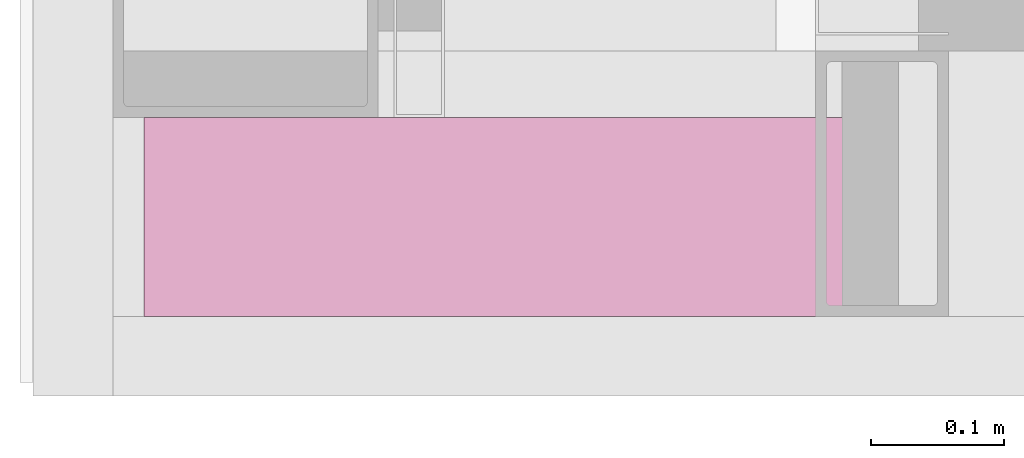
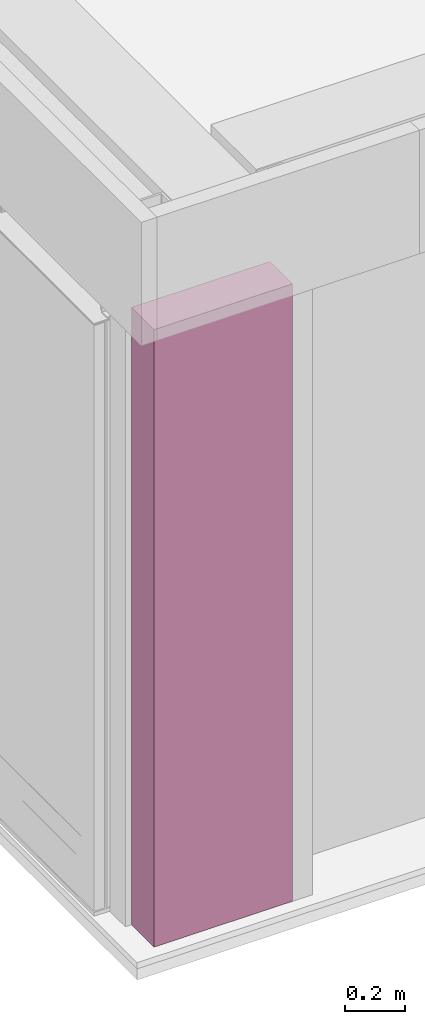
# One storey, part 10 of 14: 1 furnishing.
"""IFC2X3 building model written with IfcOpenShell, lengths in millimetres."""

from ifc_helpers import new_model, entity, si_unit, converted_unit, derived_unit, direction, frame, origin, origin_with_axes, origin_2d_with_axis, place, context, subcontext, project, spatial, rectangle, extrude, source, transform, mapped, material, type_object, element, save


model = new_model("IFC2X3")

# Units and contexts
model_context = context("Model", 3, precision=0.01, world=frame((0.0, 4.29681676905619e-09, 0.0)), true_north=direction((4.01073788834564e-13, 1.0)))
plan_context = context("Plan", 3, precision=0.01, world=frame((0.0, 4.29681676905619e-09, 0.0)), true_north=direction((4.01073788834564e-13, 1.0)))
body_context = subcontext(model_context, "Body", "Model", "MODEL_VIEW")
ifc_project = project(units=[converted_unit("PLANEANGLEUNIT", "DEGREE", entity("IfcPositiveLengthMeasure", 0.0174532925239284), si_unit("PLANEANGLEUNIT", "RADIAN"), dimensions=[0, 0, 0, 0, 0, 0, 0]), si_unit("AREAUNIT", "SQUARE_METRE"), si_unit("LENGTHUNIT", "METRE", prefix="MILLI"), si_unit("MASSUNIT", "GRAM", prefix="KILO"), si_unit("POWERUNIT", "WATT"), si_unit("PRESSUREUNIT", "PASCAL"), si_unit("FORCEUNIT", "NEWTON", prefix="KILO"), si_unit("ELECTRICVOLTAGEUNIT", "VOLT"), si_unit("ELECTRICCURRENTUNIT", "AMPERE"), si_unit("THERMODYNAMICTEMPERATUREUNIT", "DEGREE_CELSIUS"), si_unit("TIMEUNIT", "SECOND"), si_unit("VOLUMEUNIT", "CUBIC_METRE"), derived_unit("LINEARVELOCITYUNIT", [(si_unit("LENGTHUNIT", "METRE"), 1), (si_unit("TIMEUNIT", "SECOND"), -1)]), derived_unit("VOLUMETRICFLOWRATEUNIT", [(si_unit("VOLUMEUNIT", "CUBIC_METRE"), 1), (si_unit("TIMEUNIT", "SECOND"), -1)]), derived_unit("THERMALTRANSMITTANCEUNIT", [(si_unit("POWERUNIT", "WATT"), 1), (si_unit("THERMODYNAMICTEMPERATUREUNIT", "KELVIN"), -1), (si_unit("AREAUNIT", "SQUARE_METRE"), -1)]), derived_unit("SOUNDPRESSUREUNIT", [(si_unit("PRESSUREUNIT", "PASCAL"), 1)])], contexts=[model_context, plan_context])

# Site, building, storey
site_placement = place(None, origin_with_axes())
site = spatial("IfcSite", under=ifc_project, at=site_placement, Name="ENGM", CompositionType="ELEMENT")
building_placement = place(site_placement, origin_with_axes())
building = spatial("IfcBuilding", under=site, at=building_placement, Name="TI", CompositionType="ELEMENT")
storey_placement = place(building_placement, frame((0.0, 0.0, 210900.0), z_axis=(0.0, 0.0, 1.0), x_axis=(1.0, 0.0, 0.0)))
storey = spatial("IfcBuildingStorey", under=building, at=storey_placement, Name="Nivå F", CompositionType="ELEMENT", Elevation=210900.0)

# Furnishing
ifc_material = material(Name="<Unnamed>")
furniture_type = type_object("IfcFurnitureType", Name="A272 - Basis boks:A272 - Basis boks", AssemblyPlace="NOTDEFINED", material=ifc_material)
shared_shape = source(origin(), body_context, "Body", "SweptSolid", [
    extrude(rectangle(XDim=150.0, YDim=530.000000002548, at=origin_2d_with_axis()), frame((265.00000000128, 75.0, 0.0), z_axis=(0.0, 0.0, 1.0), x_axis=(0.0, 1.0, 0.0)), (0.0, 0.0, 1.0), 2500.0),
])
furnishing_placement = place(storey_placement, frame((598093.65989066, 689049.999999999, 0.0), z_axis=(0.0, 0.0, 1.0), x_axis=(1.0, 0.0, 0.0)))
element("IfcFurnishingElement", 1, at=furnishing_placement, inside=storey, type_object=furniture_type, material=ifc_material, Name="A272 - Basis boks:A272 - Basis boks", ObjectType="A272 - Basis boks:A272 - Basis boks", context=body_context, shape_type="MappedRepresentation", body=[
    mapped(shared_shape, transform((0.0, 0.0, 0.0), scale=1.0)),
])

save(model, "model.ifc")
